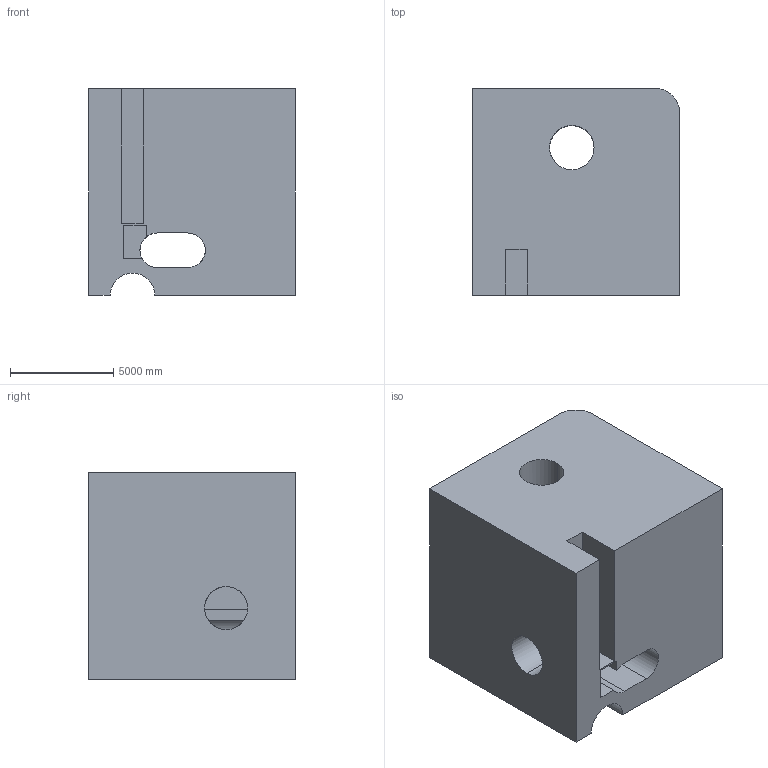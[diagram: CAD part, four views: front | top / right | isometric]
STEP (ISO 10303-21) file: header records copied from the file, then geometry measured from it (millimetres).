
FILE_DESCRIPTION (( 'STEP AP203' ), '1' );
FILE_NAME ('1753.STEP', '2022-08-19T12:24:38', ( 'user' ), ( '' ), 'SwSTEP 2.0', 'SolidWorks 2021', '' );
FILE_SCHEMA (( 'CONFIG_CONTROL_DESIGN' ));
Length unit declared in the file: centimetre
Products named in the file (1): 1753
Bounding box: 10000 x 10000 x 10000 mm (x, y, z)
Volume: 865877170834.7 mm3; surface area: 784570706 mm2
Topology: 1 solids, 1 shells, 36 faces, 111 edges, 74 vertices
Faces by surface type: plane 26, cylinder 10
Entity records: 1628 total; most frequent: CARTESIAN_POINT 525, ORIENTED_EDGE 222, DIRECTION 206, EDGE_CURVE 111, LINE 80, VECTOR 80, VERTEX_POINT 74, AXIS2_PLACEMENT_3D 63
